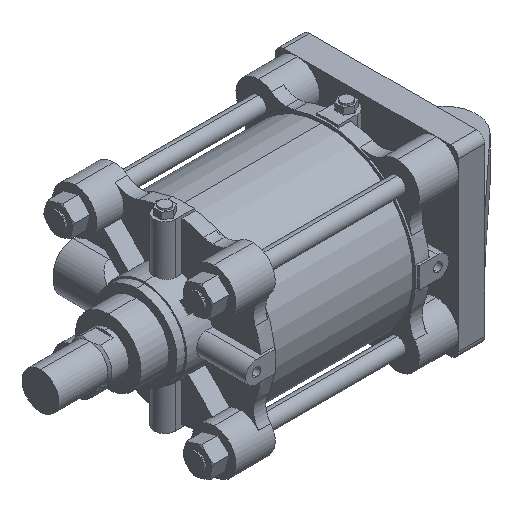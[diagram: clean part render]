
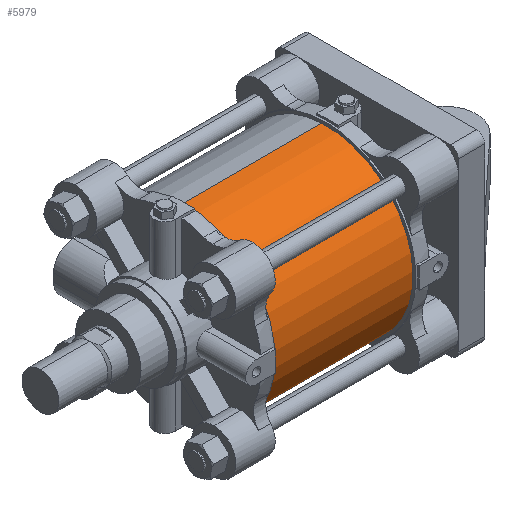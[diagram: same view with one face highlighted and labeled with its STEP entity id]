
A CAD part, isometric view. The second image highlights one B-rep face of the part: STEP entity #5979.
In plain terms, the highlighted cylindrical face has radius 106.5 mm (diameter 213 mm), a partial arc.
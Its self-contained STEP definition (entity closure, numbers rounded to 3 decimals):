
#45 = VERTEX_POINT ( 'NONE', #7866 ) ;
#1131 = ORIENTED_EDGE ( 'NONE', *, *, #2107, .F. ) ;
#1414 = CARTESIAN_POINT ( 'NONE',  ( -86., 0., 106.5 ) ) ;
#1503 = CARTESIAN_POINT ( 'NONE',  ( 86., 0., -106.5 ) ) ;
#1593 = DIRECTION ( 'NONE',  ( -1., 0., 0. ) ) ;
#2077 = ORIENTED_EDGE ( 'NONE', *, *, #7332, .T. ) ;
#2107 = EDGE_CURVE ( 'NONE', #10357, #45, #4142, .T. ) ;
#2379 = AXIS2_PLACEMENT_3D ( 'NONE', #6441, #2987, #10381 ) ;
#2702 = FACE_OUTER_BOUND ( 'NONE', #8147, .T. ) ;
#2981 = DIRECTION ( 'NONE',  ( 1., 0., 0. ) ) ;
#2987 = DIRECTION ( 'NONE',  ( 1., 0., 0. ) ) ;
#3154 = DIRECTION ( 'NONE',  ( 0., 0., -1. ) ) ;
#3439 = EDGE_CURVE ( 'NONE', #5560, #7422, #3450, .T. ) ;
#3450 = LINE ( 'NONE', #9321, #7082 ) ;
#3676 = CARTESIAN_POINT ( 'NONE',  ( 86., 0., 0. ) ) ;
#3694 = CARTESIAN_POINT ( 'NONE',  ( 86., 0., 106.5 ) ) ;
#4142 = LINE ( 'NONE', #1503, #6486 ) ;
#4362 = ORIENTED_EDGE ( 'NONE', *, *, #10407, .F. ) ;
#4563 = DIRECTION ( 'NONE',  ( 0., 0., 1. ) ) ;
#4901 = CARTESIAN_POINT ( 'NONE',  ( -86., 0., 0. ) ) ;
#5520 = AXIS2_PLACEMENT_3D ( 'NONE', #4901, #2981, #3154 ) ;
#5560 = VERTEX_POINT ( 'NONE', #3694 ) ;
#5979 = ADVANCED_FACE ( 'NONE', ( #2702 ), #9542, .T. ) ;
#6441 = CARTESIAN_POINT ( 'NONE',  ( 86., 0., 0. ) ) ;
#6486 = VECTOR ( 'NONE', #7238, 1000. ) ;
#7082 = VECTOR ( 'NONE', #9653, 1000. ) ;
#7238 = DIRECTION ( 'NONE',  ( -1., 0., 0. ) ) ;
#7291 = ORIENTED_EDGE ( 'NONE', *, *, #3439, .T. ) ;
#7332 = EDGE_CURVE ( 'NONE', #7422, #45, #7401, .T. ) ;
#7401 = CIRCLE ( 'NONE', #5520, 106.5 ) ;
#7422 = VERTEX_POINT ( 'NONE', #1414 ) ;
#7866 = CARTESIAN_POINT ( 'NONE',  ( -86., 0., -106.5 ) ) ;
#7960 = CARTESIAN_POINT ( 'NONE',  ( 86., 0., -106.5 ) ) ;
#8147 = EDGE_LOOP ( 'NONE', ( #1131, #4362, #7291, #2077 ) ) ;
#9321 = CARTESIAN_POINT ( 'NONE',  ( 86., 0., 106.5 ) ) ;
#9542 = CYLINDRICAL_SURFACE ( 'NONE', #10235, 106.5 ) ;
#9653 = DIRECTION ( 'NONE',  ( -1., 0., 0. ) ) ;
#10235 = AXIS2_PLACEMENT_3D ( 'NONE', #3676, #1593, #4563 ) ;
#10357 = VERTEX_POINT ( 'NONE', #7960 ) ;
#10381 = DIRECTION ( 'NONE',  ( 0., 0., -1. ) ) ;
#10407 = EDGE_CURVE ( 'NONE', #5560, #10357, #10560, .T. ) ;
#10560 = CIRCLE ( 'NONE', #2379, 106.5 ) ;
